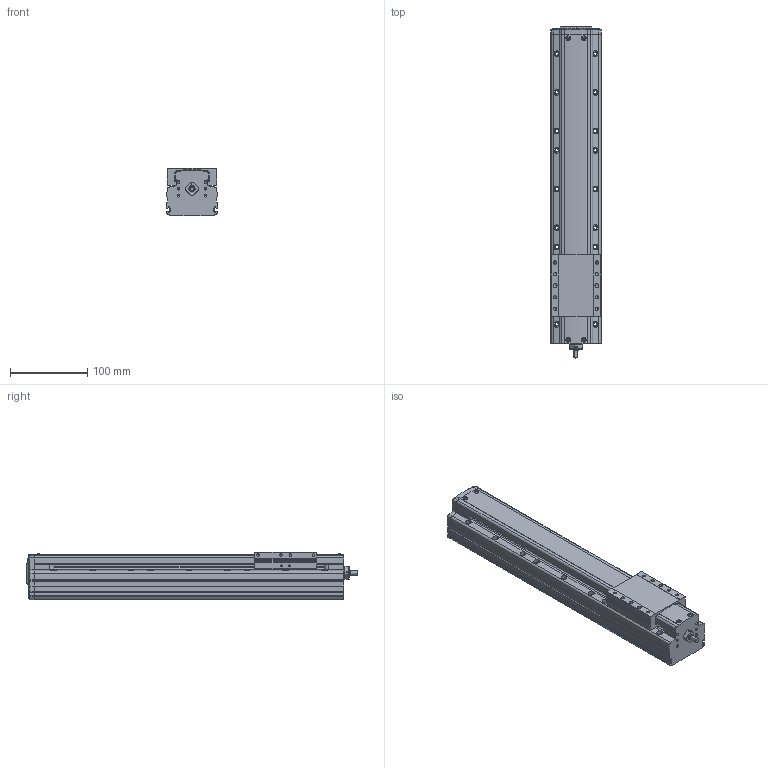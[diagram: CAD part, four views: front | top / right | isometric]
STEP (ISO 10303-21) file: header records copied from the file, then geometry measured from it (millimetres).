
FILE_DESCRIPTION(('STEP AP214'),'1');
FILE_NAME('Z:/Web/3D/PSA65/STP/PSA65-250 (3D)/PSA65ㅁㅁ-250.stp','2014-06-25T03:34:06',(' '),(' '),'Spatial InterOp 3D',' ',' ');
FILE_SCHEMA(('automotive_design'));
Length unit declared in the file: millimetre
Products named in the file (44): SLIDE; RRCV-PA060; 1; 2; 3; 4; 5; 6; 7; 8; 9; 10; 11; 12; 13; 14; 15; 16; 17; 18; 19; 20; 21; 22; 23; 24; 25; 26; 27; 28; 29; 30; 31; 스크루 : Round - M3.0 x 8.0; RN8 x 0.75; SHAFT-SAN65; BASE; 스크루 : Round - M3.0 x 6.0
Bounding box: 65 x 429.3 x 62 mm (x, y, z)
Volume: 1284492.6 mm3; surface area: 183813.4 mm2
Topology: 44 solids, 44 shells, 1656 faces, 4421 edges, 2816 vertices
Faces by surface type: plane 989, cylinder 455, cone 159, sphere 22, torus 16, bspline 15
Entity records: 65757 total; most frequent: CARTESIAN_POINT 10286, DIRECTION 8716, ORIENTED_EDGE 8614, EDGE_CURVE 4307, LINE 3104, VECTOR 3104, VERTEX_POINT 2816, AXIS2_PLACEMENT_3D 2806
